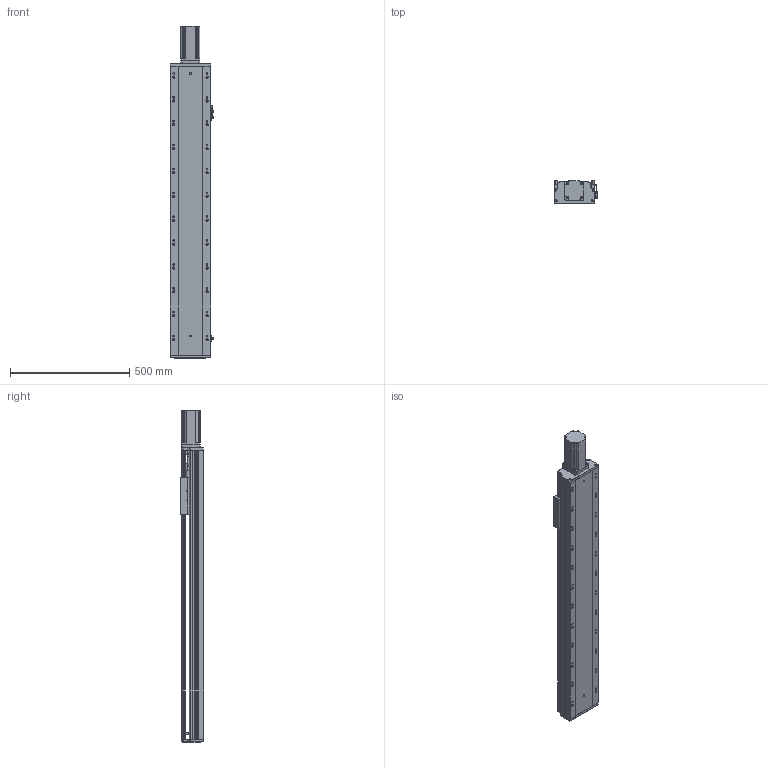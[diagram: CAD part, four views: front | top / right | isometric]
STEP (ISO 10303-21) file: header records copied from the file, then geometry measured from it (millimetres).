
FILE_DESCRIPTION (( 'STEP AP203' ), '1' );
FILE_NAME ('RY170-L2510-300-MK(FK17).SLDASM_900.step', '2022-08-23T02:00:42', ( '' ), ( '' ), 'SwSTEP 2.0', 'SolidWorks 2016', '' );
FILE_SCHEMA (( 'CONFIG_CONTROL_DESIGN' ));
Length unit declared in the file: millimetre
Products named in the file (15): RY170-L2510-300-MK(FK17).SLDASM_900; 侂狟750W萇儂ㄗ80遺ㄘ; 覜茼ん672; RY170臏賑輸25佪裝蹟譫; RY170ヶ醱裔啣; RY170-300倰第菁釱-MK_900; 15; RY170綴裔啣; 滅袉蝶18-10; RY170外置感应片(200共用）; RY170-300倰第裔啣-MK_900; 750W萇儂梓袧蛌諉啣; 滅袉蝶18-28; RY170电机端支撑座(25丝杆7004轴承)-压铸(FK17); 侂狟400W侜督萇儂
Assembly tree (16 placements, depth 3):
  RY170-L2510-300-MK(FK17).SLDASM_900
    RY170-300倰第菁釱-MK_900
    RY170-300倰第裔啣-MK_900
    RY170臏賑輸25佪裝蹟譫
    侂狟400W侜督萇儂
      15
    RY170綴裔啣
    RY170电机端支撑座(25丝杆7004轴承)-压铸(FK17)
    覜茼ん672  x3
    RY170外置感应片(200共用）
    RY170ヶ醱裔啣
    滅袉蝶18-28
    滅袉蝶18-10
    侂狟750W萇儂ㄗ80遺ㄘ
    750W萇儂梓袧蛌諉啣
Bounding box: 183.7 x 97 x 1391 mm (x, y, z)
Volume: 7306791.4 mm3; surface area: 2157933.1 mm2
Topology: 15 solids, 15 shells, 2293 faces, 6695 edges, 4280 vertices
Faces by surface type: plane 1014, cylinder 996, cone 247, bspline 36
Entity records: 75975 total; most frequent: CARTESIAN_POINT 18270, ORIENTED_EDGE 12090, DIRECTION 11471, EDGE_CURVE 6045, AXIS2_PLACEMENT_3D 4010, VERTEX_POINT 3960, LINE 3451, VECTOR 3451
